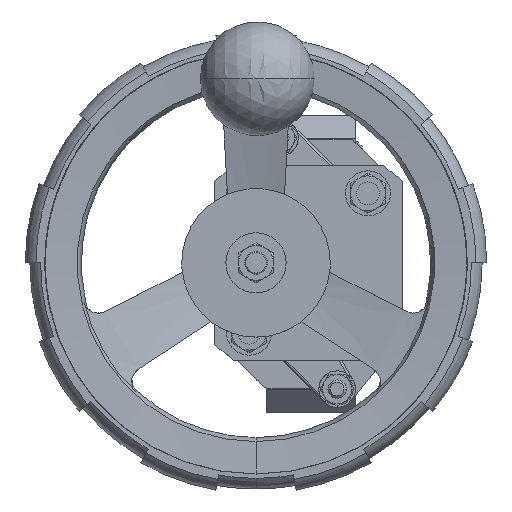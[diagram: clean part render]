
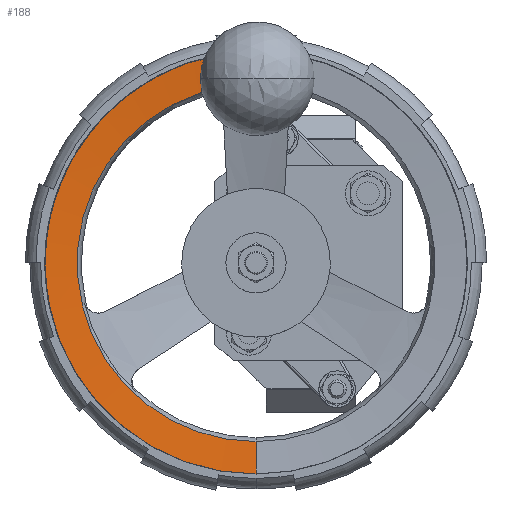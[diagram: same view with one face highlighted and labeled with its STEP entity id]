
A CAD part, top view. The second image highlights one B-rep face of the part: STEP entity #188.
In plain terms, the highlighted conical face has half-angle 85 degrees and reference radius 92.5 mm.
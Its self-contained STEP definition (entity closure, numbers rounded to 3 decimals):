
#188=ADVANCED_FACE('',(#1251),#1252,.F.);
#1251=FACE_OUTER_BOUND('',#3276,.T.);
#1252=CONICAL_SURFACE('',#3277,92.5,1.484);
#3276=EDGE_LOOP('',(#8262,#8263,#8264,#8265,#8266));
#3277=AXIS2_PLACEMENT_3D('',#8267,#8268,#8269);
#8262=ORIENTED_EDGE('',*,*,#15503,.F.);
#8263=ORIENTED_EDGE('',*,*,#15050,.T.);
#8264=ORIENTED_EDGE('',*,*,#15504,.T.);
#8265=ORIENTED_EDGE('',*,*,#15505,.T.);
#8266=ORIENTED_EDGE('',*,*,#15506,.F.);
#8267=CARTESIAN_POINT('',(-23.,0.,320.744));
#8268=DIRECTION('',(0.,0.,1.));
#8269=DIRECTION('',(0.,-1.,0.));
#15050=EDGE_CURVE('',#17613,#17611,#17614,.T.);
#15503=EDGE_CURVE('',#17613,#18051,#18499,.T.);
#15504=EDGE_CURVE('',#17611,#18500,#18501,.T.);
#15505=EDGE_CURVE('',#18500,#18502,#18503,.T.);
#15506=EDGE_CURVE('',#18051,#18502,#18504,.T.);
#17611=VERTEX_POINT('',#21540);
#17613=VERTEX_POINT('',#21545);
#17614=CIRCLE('',#21546,78.28);
#18051=VERTEX_POINT('',#22227);
#18499=LINE('',#23046,#23047);
#18500=VERTEX_POINT('',#23048);
#18501=B_SPLINE_CURVE_WITH_KNOTS('',3,(#23049,#23050,#23051,#23052),.UNSPECIFIED.,.F.,.F.,(4,4),(0.001,0.003),.UNSPECIFIED.);
#18502=VERTEX_POINT('',#23053);
#18503=B_SPLINE_CURVE_WITH_KNOTS('',3,(#23054,#23055,#23056,#23057),.UNSPECIFIED.,.F.,.F.,(4,4),(0.021,0.033),.UNSPECIFIED.);
#18504=CIRCLE('',#23058,92.5);
#21540=CARTESIAN_POINT('',(-35.21,77.322,319.5));
#21545=CARTESIAN_POINT('',(-23.,-78.28,319.5));
#21546=AXIS2_PLACEMENT_3D('',#29433,#29434,#29435);
#22227=CARTESIAN_POINT('',(-23.,-92.5,320.744));
#23046=CARTESIAN_POINT('',(-23.,-92.5,320.744));
#23047=VECTOR('',#30427,1.);
#23048=CARTESIAN_POINT('',(-35.5,80.001,319.735));
#23049=CARTESIAN_POINT('',(-35.21,77.322,319.5));
#23050=CARTESIAN_POINT('',(-35.404,78.208,319.579));
#23051=CARTESIAN_POINT('',(-35.5,79.1,319.658));
#23052=CARTESIAN_POINT('',(-35.5,80.001,319.735));
#23053=CARTESIAN_POINT('',(-35.5,91.652,320.744));
#23054=CARTESIAN_POINT('',(-35.5,80.001,319.735));
#23055=CARTESIAN_POINT('',(-35.5,83.885,320.071));
#23056=CARTESIAN_POINT('',(-35.5,87.768,320.407));
#23057=CARTESIAN_POINT('',(-35.5,91.652,320.744));
#23058=AXIS2_PLACEMENT_3D('',#30428,#30429,#30430);
#29433=CARTESIAN_POINT('',(-23.,0.,319.5));
#29434=DIRECTION('',(0.,0.,-1.));
#29435=DIRECTION('',(0.,1.,0.));
#30427=DIRECTION('',(0.,-0.996,0.087));
#30428=CARTESIAN_POINT('',(-23.,0.,320.744));
#30429=DIRECTION('',(0.,0.,-1.));
#30430=DIRECTION('',(0.,1.,0.));
